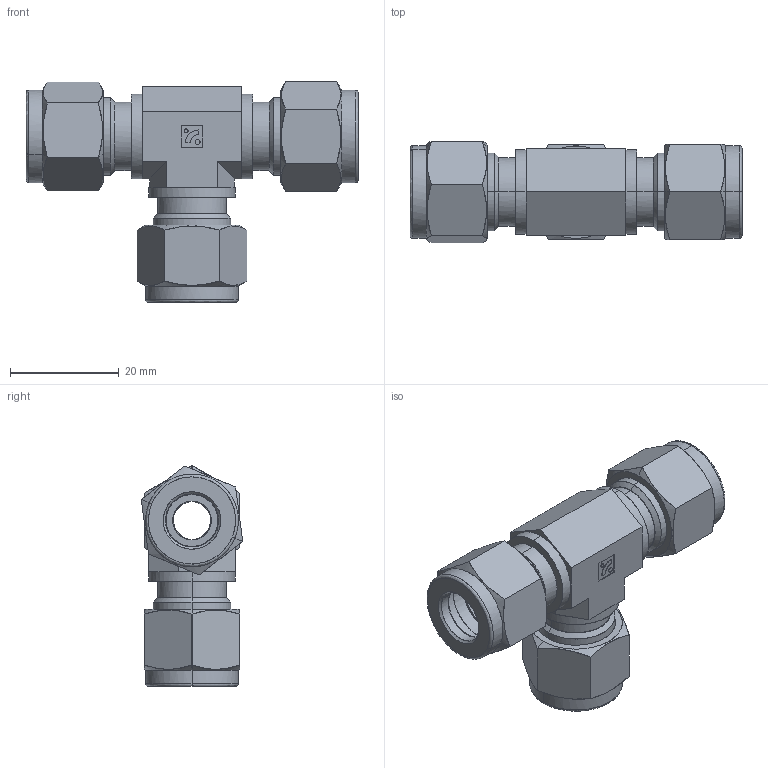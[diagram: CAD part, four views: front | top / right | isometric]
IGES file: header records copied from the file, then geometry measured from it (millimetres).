
Start section: Comment
Global section: file name: SUT-6.igs; native system:  By UGS Corp.; preprocessor: XPlus GENERIC/IGES 3.0; author: Author; organization: Title; date: 20100114.113329; units: millimetre
Bounding box: 60.95 x 18.64 x 40.56 mm (x, y, z)
Surface area: 10133 mm2 (no closed solid volume)
Topology: 0 solids, 0 shells, 212 faces, 920 edges, 918 vertices
Faces by surface type: bspline 212
